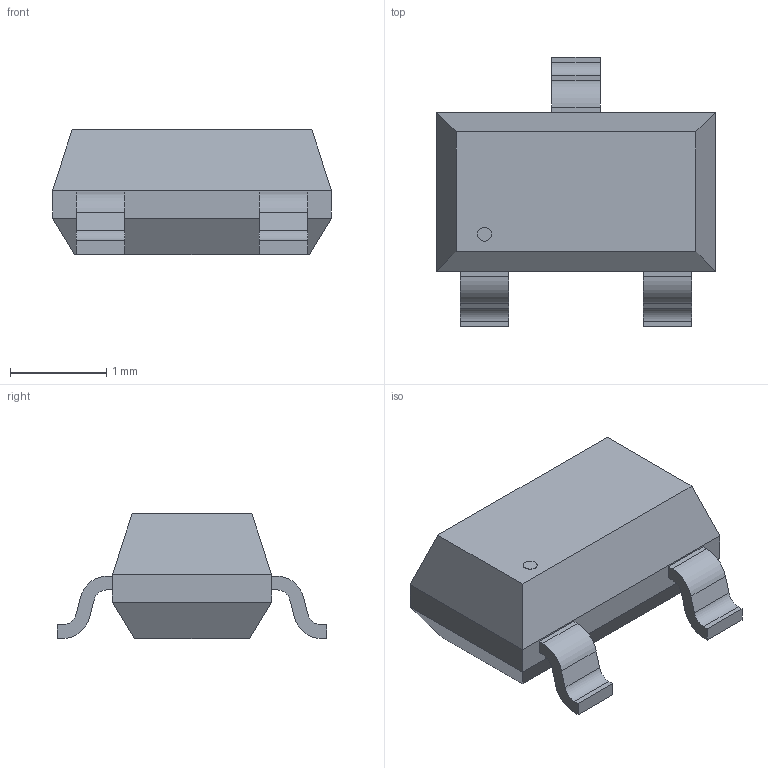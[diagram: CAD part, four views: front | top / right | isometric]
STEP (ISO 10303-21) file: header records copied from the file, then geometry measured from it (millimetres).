
FILE_DESCRIPTION(('STEP AP214'),'1');
FILE_NAME('TRANS_2SB852K_ROM','2021-06-21T08:37:55',(''),(''),'','','');
FILE_SCHEMA(('AUTOMOTIVE_DESIGN'));
Length unit declared in the file: millimetre
Products named in the file (1): product
Bounding box: 2.9 x 2.79 x 1.3 mm (x, y, z)
Volume: 5.5 mm3; surface area: 21.6 mm2
Topology: 5 solids, 5 shells, 59 faces, 139 edges, 90 vertices
Faces by surface type: plane 46, cylinder 13
Full cylindrical faces by diameter (mm): 0.145 x1
Entity records: 1652 total; most frequent: DIRECTION 286, ORIENTED_EDGE 276, CARTESIAN_POINT 165, EDGE_CURVE 138, LINE 112, VECTOR 112, VERTEX_POINT 90, AXIS2_PLACEMENT_3D 87
